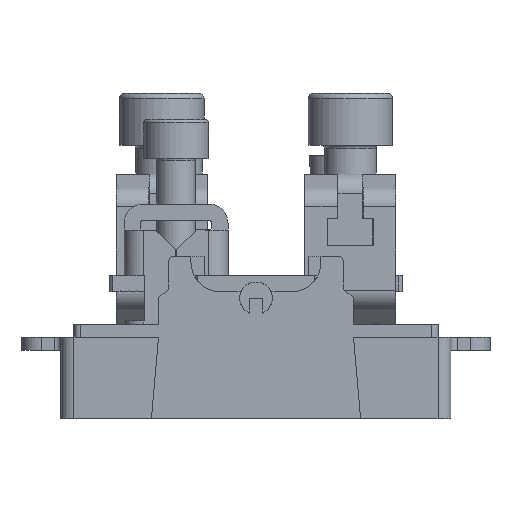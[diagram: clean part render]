
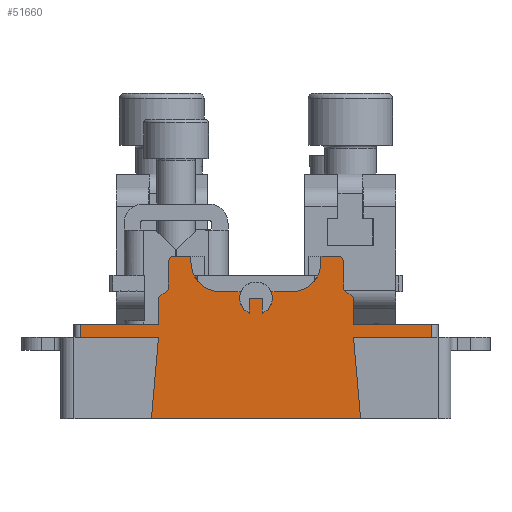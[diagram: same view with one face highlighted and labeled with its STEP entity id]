
A CAD part, front view. The second image highlights one B-rep face of the part: STEP entity #51660.
In plain terms, the highlighted planar face has unit normal (0, -1, 0).
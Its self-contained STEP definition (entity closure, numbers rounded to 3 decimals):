
#775=CIRCLE('',#53787,4.5);
#777=CIRCLE('',#53793,2.5);
#778=CIRCLE('',#53794,2.5);
#780=CIRCLE('',#53797,4.5);
#784=CIRCLE('',#53809,7.5);
#785=CIRCLE('',#53812,1.);
#790=CIRCLE('',#53833,1.);
#793=CIRCLE('',#53850,7.5);
#3309=ORIENTED_EDGE('',*,*,#13619,.F.);
#3310=ORIENTED_EDGE('',*,*,#13617,.T.);
#3311=ORIENTED_EDGE('',*,*,#13615,.F.);
#3312=ORIENTED_EDGE('',*,*,#13613,.F.);
#3313=ORIENTED_EDGE('',*,*,#13611,.T.);
#3314=ORIENTED_EDGE('',*,*,#13609,.T.);
#3315=ORIENTED_EDGE('',*,*,#13607,.T.);
#3316=ORIENTED_EDGE('',*,*,#13604,.F.);
#3317=ORIENTED_EDGE('',*,*,#13602,.F.);
#3318=ORIENTED_EDGE('',*,*,#13643,.T.);
#3319=ORIENTED_EDGE('',*,*,#13599,.T.);
#3320=ORIENTED_EDGE('',*,*,#13650,.F.);
#3321=ORIENTED_EDGE('',*,*,#13664,.T.);
#3322=ORIENTED_EDGE('',*,*,#13691,.T.);
#3323=ORIENTED_EDGE('',*,*,#13692,.T.);
#3324=ORIENTED_EDGE('',*,*,#13693,.F.);
#3325=ORIENTED_EDGE('',*,*,#13653,.F.);
#3326=ORIENTED_EDGE('',*,*,#13655,.T.);
#3327=ORIENTED_EDGE('',*,*,#13658,.F.);
#3328=ORIENTED_EDGE('',*,*,#12883,.T.);
#3329=ORIENTED_EDGE('',*,*,#13595,.T.);
#3330=ORIENTED_EDGE('',*,*,#12891,.T.);
#3331=ORIENTED_EDGE('',*,*,#13593,.F.);
#3332=ORIENTED_EDGE('',*,*,#13590,.F.);
#3333=ORIENTED_EDGE('',*,*,#13588,.F.);
#3334=ORIENTED_EDGE('',*,*,#13586,.F.);
#3335=ORIENTED_EDGE('',*,*,#13592,.F.);
#3336=ORIENTED_EDGE('',*,*,#12895,.T.);
#3337=ORIENTED_EDGE('',*,*,#13583,.T.);
#3338=ORIENTED_EDGE('',*,*,#12873,.F.);
#12873=EDGE_CURVE('',#18425,#18426,#22123,.T.);
#12883=EDGE_CURVE('',#18435,#18434,#22133,.T.);
#12891=EDGE_CURVE('',#18439,#18441,#22141,.T.);
#12895=EDGE_CURVE('',#18443,#18445,#22145,.T.);
#13583=EDGE_CURVE('',#18445,#18426,#775,.T.);
#13586=EDGE_CURVE('',#18918,#18919,#22662,.T.);
#13588=EDGE_CURVE('',#18919,#18920,#22664,.T.);
#13590=EDGE_CURVE('',#18920,#18921,#22666,.T.);
#13592=EDGE_CURVE('',#18443,#18918,#777,.T.);
#13593=EDGE_CURVE('',#18921,#18441,#778,.T.);
#13595=EDGE_CURVE('',#18434,#18439,#780,.T.);
#13599=EDGE_CURVE('',#18923,#18922,#22670,.F.);
#13602=EDGE_CURVE('',#18924,#18925,#22673,.F.);
#13604=EDGE_CURVE('',#18925,#18926,#22675,.T.);
#13607=EDGE_CURVE('',#18927,#18926,#22676,.T.);
#13609=EDGE_CURVE('',#18928,#18927,#22678,.T.);
#13611=EDGE_CURVE('',#18929,#18928,#22680,.T.);
#13613=EDGE_CURVE('',#18929,#18930,#784,.T.);
#13615=EDGE_CURVE('',#18930,#18931,#22683,.T.);
#13617=EDGE_CURVE('',#18932,#18931,#785,.T.);
#13619=EDGE_CURVE('',#18932,#18425,#22686,.T.);
#13643=EDGE_CURVE('',#18924,#18923,#22707,.T.);
#13650=EDGE_CURVE('',#18948,#18922,#22713,.T.);
#13653=EDGE_CURVE('',#18951,#18952,#22716,.T.);
#13655=EDGE_CURVE('',#18951,#18953,#790,.T.);
#13658=EDGE_CURVE('',#18435,#18953,#22719,.T.);
#13664=EDGE_CURVE('',#18948,#18957,#22724,.F.);
#13691=EDGE_CURVE('',#18957,#18980,#22746,.T.);
#13692=EDGE_CURVE('',#18980,#18981,#22747,.T.);
#13693=EDGE_CURVE('',#18952,#18981,#793,.T.);
#18425=VERTEX_POINT('',#66510);
#18426=VERTEX_POINT('',#66512);
#18434=VERTEX_POINT('',#66530);
#18435=VERTEX_POINT('',#66532);
#18439=VERTEX_POINT('',#66543);
#18441=VERTEX_POINT('',#66547);
#18443=VERTEX_POINT('',#66552);
#18445=VERTEX_POINT('',#66556);
#18918=VERTEX_POINT('',#68834);
#18919=VERTEX_POINT('',#68836);
#18920=VERTEX_POINT('',#68840);
#18921=VERTEX_POINT('',#68844);
#18922=VERTEX_POINT('',#68857);
#18923=VERTEX_POINT('',#68859);
#18924=VERTEX_POINT('',#68863);
#18925=VERTEX_POINT('',#68865);
#18926=VERTEX_POINT('',#68869);
#18927=VERTEX_POINT('',#68873);
#18928=VERTEX_POINT('',#68878);
#18929=VERTEX_POINT('',#68882);
#18930=VERTEX_POINT('',#68886);
#18931=VERTEX_POINT('',#68890);
#18932=VERTEX_POINT('',#68894);
#18948=VERTEX_POINT('',#68956);
#18951=VERTEX_POINT('',#68963);
#18952=VERTEX_POINT('',#68965);
#18953=VERTEX_POINT('',#68969);
#18957=VERTEX_POINT('',#68984);
#18980=VERTEX_POINT('',#69171);
#18981=VERTEX_POINT('',#69173);
#22123=LINE('',#66511,#26515);
#22133=LINE('',#66531,#26525);
#22141=LINE('',#66548,#26533);
#22145=LINE('',#66557,#26537);
#22662=LINE('',#68835,#27054);
#22664=LINE('',#68839,#27056);
#22666=LINE('',#68843,#27058);
#22670=LINE('',#68858,#27062);
#22673=LINE('',#68864,#27065);
#22675=LINE('',#68868,#27067);
#22676=LINE('',#68874,#27068);
#22678=LINE('',#68877,#27070);
#22680=LINE('',#68881,#27072);
#22683=LINE('',#68889,#27075);
#22686=LINE('',#68897,#27078);
#22707=LINE('',#68944,#27099);
#22713=LINE('',#68957,#27105);
#22716=LINE('',#68964,#27108);
#22719=LINE('',#68974,#27111);
#22724=LINE('',#68985,#27116);
#22746=LINE('',#69170,#27138);
#22747=LINE('',#69172,#27139);
#26515=VECTOR('',#56328,1000.);
#26525=VECTOR('',#56340,1000.);
#26533=VECTOR('',#56352,1000.);
#26537=VECTOR('',#56358,1000.);
#27054=VECTOR('',#57625,1000.);
#27056=VECTOR('',#57629,1000.);
#27058=VECTOR('',#57633,1000.);
#27062=VECTOR('',#57655,1000.);
#27065=VECTOR('',#57660,1000.);
#27067=VECTOR('',#57664,1000.);
#27068=VECTOR('',#57671,1000.);
#27070=VECTOR('',#57675,1000.);
#27072=VECTOR('',#57679,1000.);
#27075=VECTOR('',#57688,1000.);
#27078=VECTOR('',#57697,1000.);
#27099=VECTOR('',#57746,1000.);
#27105=VECTOR('',#57758,1000.);
#27108=VECTOR('',#57763,1000.);
#27111=VECTOR('',#57774,1000.);
#27116=VECTOR('',#57785,1000.);
#27138=VECTOR('',#57829,1000.);
#27139=VECTOR('',#57830,1000.);
#31223=EDGE_LOOP('',(#3309,#3310,#3311,#3312,#3313,#3314,#3315,#3316,#3317,
#3318,#3319,#3320,#3321,#3322,#3323,#3324,#3325,#3326,#3327,#3328,#3329,
#3330,#3331,#3332,#3333,#3334,#3335,#3336,#3337,#3338));
#33565=FACE_BOUND('',#31223,.T.);
#35787=PLANE('',#53849);
#51660=ADVANCED_FACE('',(#33565),#35787,.T.);
#53787=AXIS2_PLACEMENT_3D('',#68830,#57618,#57619);
#53793=AXIS2_PLACEMENT_3D('',#68847,#57637,#57638);
#53794=AXIS2_PLACEMENT_3D('',#68848,#57639,#57640);
#53797=AXIS2_PLACEMENT_3D('',#68851,#57645,#57646);
#53809=AXIS2_PLACEMENT_3D('',#68885,#57683,#57684);
#53812=AXIS2_PLACEMENT_3D('',#68893,#57692,#57693);
#53833=AXIS2_PLACEMENT_3D('',#68968,#57767,#57768);
#53849=AXIS2_PLACEMENT_3D('',#69169,#57827,#57828);
#53850=AXIS2_PLACEMENT_3D('',#69174,#57831,#57832);
#56328=DIRECTION('',(0.,0.,-1.));
#56340=DIRECTION('',(0.,0.,-1.));
#56352=DIRECTION('',(-1.,0.,0.));
#56358=DIRECTION('',(-1.,0.,0.));
#57618=DIRECTION('',(0.,1.,0.));
#57619=DIRECTION('',(1.,0.,0.));
#57625=DIRECTION('',(0.,0.,1.));
#57629=DIRECTION('',(1.,0.,0.));
#57633=DIRECTION('',(0.,0.,-1.));
#57637=DIRECTION('',(0.,-1.,0.));
#57638=DIRECTION('',(1.,0.,0.));
#57639=DIRECTION('',(0.,-1.,0.));
#57640=DIRECTION('',(1.,0.,0.));
#57645=DIRECTION('',(0.,1.,0.));
#57646=DIRECTION('',(1.,0.,0.));
#57655=DIRECTION('',(0.087,0.,-0.996));
#57660=DIRECTION('',(-0.087,0.,-0.996));
#57664=DIRECTION('',(-1.,0.,0.));
#57671=DIRECTION('',(0.,0.,-1.));
#57675=DIRECTION('',(-1.,0.,0.));
#57679=DIRECTION('',(0.,0.,-1.));
#57683=DIRECTION('',(0.,-1.,0.));
#57684=DIRECTION('',(1.,0.,0.));
#57688=DIRECTION('',(0.,0.,1.));
#57692=DIRECTION('',(0.,-1.,0.));
#57693=DIRECTION('',(1.,0.,0.));
#57697=DIRECTION('',(1.,0.,0.));
#57746=DIRECTION('',(1.,0.,0.));
#57758=DIRECTION('',(-1.,0.,0.));
#57763=DIRECTION('',(0.,0.,-1.));
#57767=DIRECTION('',(0.,-1.,0.));
#57768=DIRECTION('',(1.,0.,0.));
#57774=DIRECTION('',(1.,0.,0.));
#57785=DIRECTION('',(0.,0.,-1.));
#57827=DIRECTION('',(0.,-1.,0.));
#57828=DIRECTION('',(1.,0.,0.));
#57829=DIRECTION('',(-1.,0.,0.));
#57830=DIRECTION('',(0.,0.,1.));
#57831=DIRECTION('',(0.,-1.,0.));
#57832=DIRECTION('',(1.,0.,0.));
#66510=CARTESIAN_POINT('',(-10.,-60.5,5.5));
#66511=CARTESIAN_POINT('',(-10.,-60.5,5.5));
#66512=CARTESIAN_POINT('',(-10.,-60.5,4.5));
#66530=CARTESIAN_POINT('',(10.,-60.5,4.5));
#66531=CARTESIAN_POINT('',(10.,-60.5,5.5));
#66532=CARTESIAN_POINT('',(10.,-60.5,5.5));
#66543=CARTESIAN_POINT('',(5.5,-60.5,0.));
#66547=CARTESIAN_POINT('',(2.291,-60.5,0.));
#66548=CARTESIAN_POINT('',(2.291,-60.5,0.));
#66552=CARTESIAN_POINT('',(-2.291,-60.5,0.));
#66556=CARTESIAN_POINT('',(-5.5,-60.5,0.));
#66557=CARTESIAN_POINT('',(-5.5,-60.5,0.));
#68830=CARTESIAN_POINT('',(-5.5,-60.5,4.5));
#68834=CARTESIAN_POINT('',(-1.,-60.5,-3.291));
#68835=CARTESIAN_POINT('',(-1.,-60.5,-1.));
#68836=CARTESIAN_POINT('',(-1.,-60.5,-1.));
#68839=CARTESIAN_POINT('',(-1.,-60.5,-1.));
#68840=CARTESIAN_POINT('',(1.,-60.5,-1.));
#68843=CARTESIAN_POINT('',(1.,-60.5,-1.));
#68844=CARTESIAN_POINT('',(1.,-60.5,-3.291));
#68847=CARTESIAN_POINT('',(0.,-60.5,-1.));
#68848=CARTESIAN_POINT('',(0.,-60.5,-1.));
#68851=CARTESIAN_POINT('',(5.5,-60.5,4.5));
#68857=CARTESIAN_POINT('',(15.,-60.5,-7.));
#68858=CARTESIAN_POINT('',(14.598,-60.5,-2.41));
#68859=CARTESIAN_POINT('',(16.094,-60.5,-19.5));
#68863=CARTESIAN_POINT('',(-16.094,-60.5,-19.5));
#68864=CARTESIAN_POINT('',(-15.,-60.5,-7.));
#68865=CARTESIAN_POINT('',(-15.,-60.5,-7.));
#68868=CARTESIAN_POINT('',(-15.,-60.5,-7.));
#68869=CARTESIAN_POINT('',(-27.,-60.5,-7.));
#68873=CARTESIAN_POINT('',(-27.,-60.5,-5.));
#68874=CARTESIAN_POINT('',(-27.,-60.5,-5.));
#68877=CARTESIAN_POINT('',(-15.,-60.5,-5.));
#68878=CARTESIAN_POINT('',(-15.,-60.5,-5.));
#68881=CARTESIAN_POINT('',(-15.,-60.5,-3.));
#68882=CARTESIAN_POINT('',(-15.,-60.5,-0.844));
#68885=CARTESIAN_POINT('',(-19.,-60.5,5.5));
#68886=CARTESIAN_POINT('',(-13.5,-60.5,0.401));
#68889=CARTESIAN_POINT('',(-13.5,-60.5,5.5));
#68890=CARTESIAN_POINT('',(-13.5,-60.5,4.5));
#68893=CARTESIAN_POINT('',(-12.5,-60.5,4.5));
#68894=CARTESIAN_POINT('',(-12.5,-60.5,5.5));
#68897=CARTESIAN_POINT('',(-15.,-60.5,5.5));
#68944=CARTESIAN_POINT('',(-30.,-60.5,-19.5));
#68956=CARTESIAN_POINT('',(27.,-60.5,-7.));
#68957=CARTESIAN_POINT('',(-15.,-60.5,-7.));
#68963=CARTESIAN_POINT('',(13.5,-60.5,4.5));
#68964=CARTESIAN_POINT('',(13.5,-60.5,5.5));
#68965=CARTESIAN_POINT('',(13.5,-60.5,0.401));
#68968=CARTESIAN_POINT('',(12.5,-60.5,4.5));
#68969=CARTESIAN_POINT('',(12.5,-60.5,5.5));
#68974=CARTESIAN_POINT('',(10.,-60.5,5.5));
#68984=CARTESIAN_POINT('',(27.,-60.5,-5.));
#68985=CARTESIAN_POINT('',(27.,-60.5,-5.));
#69169=CARTESIAN_POINT('',(-15.,-60.5,-5.));
#69170=CARTESIAN_POINT('',(28.,-60.5,-5.));
#69171=CARTESIAN_POINT('',(15.,-60.5,-5.));
#69172=CARTESIAN_POINT('',(15.,-60.5,-7.));
#69173=CARTESIAN_POINT('',(15.,-60.5,-0.844));
#69174=CARTESIAN_POINT('',(19.,-60.5,5.5));
